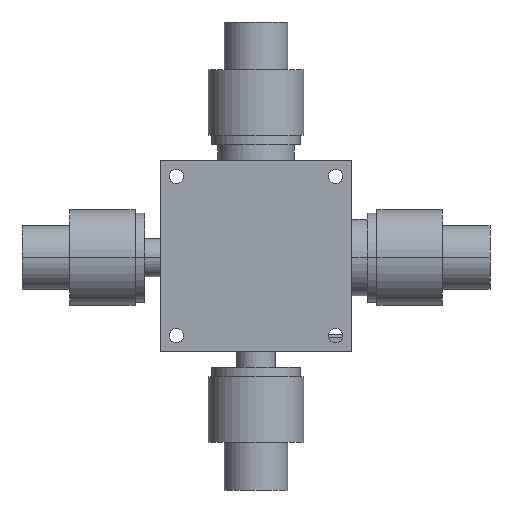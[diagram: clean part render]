
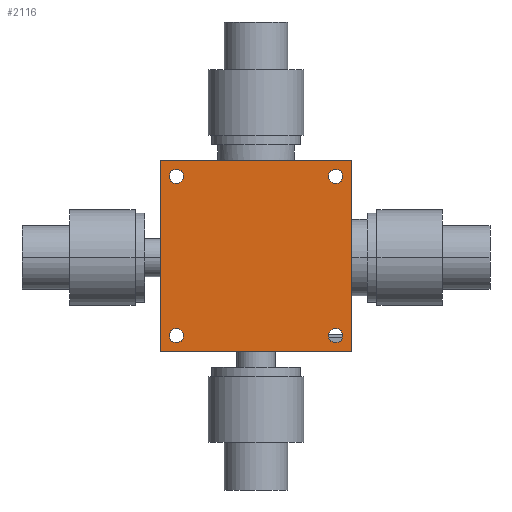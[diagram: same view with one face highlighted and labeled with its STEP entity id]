
A CAD part, front view. The second image highlights one B-rep face of the part: STEP entity #2116.
In plain terms, the highlighted planar face has unit normal (0, -1, 0).
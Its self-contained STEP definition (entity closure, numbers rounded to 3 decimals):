
#961 = CARTESIAN_POINT ( 'NONE',  ( -27.25, 0., -25. ) ) ;
#1006 = DIRECTION ( 'NONE',  ( 1., 0., 0. ) ) ;
#1007 = DIRECTION ( 'NONE',  ( 0., 1., 0. ) ) ;
#1008 = AXIS2_PLACEMENT_3D ( 'NONE', #1031, #1007, #1006 ) ;
#1017 = DIRECTION ( 'NONE',  ( 1., 0., 0. ) ) ;
#1018 = DIRECTION ( 'NONE',  ( 0., 1., 0. ) ) ;
#1019 = CARTESIAN_POINT ( 'NONE',  ( -25., 0., -25. ) ) ;
#1020 = AXIS2_PLACEMENT_3D ( 'NONE', #1019, #1018, #1017 ) ;
#1021 = CIRCLE ( 'NONE', #1020, 2.25 ) ;
#1022 = CARTESIAN_POINT ( 'NONE',  ( -22.75, 0., -25. ) ) ;
#1031 = CARTESIAN_POINT ( 'NONE',  ( 25., 0., -25. ) ) ;
#1079 = CIRCLE ( 'NONE', #1008, 2.25 ) ;
#1087 = DIRECTION ( 'NONE',  ( 1., 0., 0. ) ) ;
#1088 = DIRECTION ( 'NONE',  ( 0., 1., 0. ) ) ;
#1089 = AXIS2_PLACEMENT_3D ( 'NONE', #1141, #1088, #1087 ) ;
#1100 = CARTESIAN_POINT ( 'NONE',  ( 22.75, 0., -25. ) ) ;
#1101 = CARTESIAN_POINT ( 'NONE',  ( 27.25, 0., -25. ) ) ;
#1141 = CARTESIAN_POINT ( 'NONE',  ( -25., 0., 25. ) ) ;
#1142 = CIRCLE ( 'NONE', #1089, 2.25 ) ;
#1857 = ORIENTED_EDGE ( 'NONE', *, *, #2204, .T. ) ;
#1858 = ORIENTED_EDGE ( 'NONE', *, *, #1859, .T. ) ;
#1859 = EDGE_CURVE ( 'NONE', #2221, #1860, #3244, .T. ) ;
#1860 = VERTEX_POINT ( 'NONE', #3240 ) ;
#1861 = ORIENTED_EDGE ( 'NONE', *, *, #1862, .T. ) ;
#1862 = EDGE_CURVE ( 'NONE', #1860, #1895, #3239, .T. ) ;
#1878 = EDGE_CURVE ( 'NONE', #1879, #1926, #3343, .T. ) ;
#1879 = VERTEX_POINT ( 'NONE', #3272 ) ;
#1888 = EDGE_LOOP ( 'NONE', ( #1889, #1891 ) ) ;
#1889 = ORIENTED_EDGE ( 'NONE', *, *, #2219, .T. ) ;
#1891 = ORIENTED_EDGE ( 'NONE', *, *, #1878, .T. ) ;
#1892 = EDGE_LOOP ( 'NONE', ( #1893, #1857, #1858, #1861 ) ) ;
#1893 = ORIENTED_EDGE ( 'NONE', *, *, #1894, .T. ) ;
#1894 = EDGE_CURVE ( 'NONE', #1895, #2220, #3265, .T. ) ;
#1895 = VERTEX_POINT ( 'NONE', #3256 ) ;
#1923 = VERTEX_POINT ( 'NONE', #3443 ) ;
#1924 = VERTEX_POINT ( 'NONE', #3442 ) ;
#1926 = VERTEX_POINT ( 'NONE', #3419 ) ;
#2110 = EDGE_CURVE ( 'NONE', #5774, #5529, #3432, .T. ) ;
#2116 = ADVANCED_FACE ( 'NONE', ( #3455, #3463, #3459, #3457, #3456 ), #3466, .F. ) ;
#2117 = EDGE_LOOP ( 'NONE', ( #2118, #2119 ) ) ;
#2118 = ORIENTED_EDGE ( 'NONE', *, *, #2128, .T. ) ;
#2119 = ORIENTED_EDGE ( 'NONE', *, *, #5761, .T. ) ;
#2120 = EDGE_LOOP ( 'NONE', ( #2121, #2122 ) ) ;
#2121 = ORIENTED_EDGE ( 'NONE', *, *, #2110, .T. ) ;
#2122 = ORIENTED_EDGE ( 'NONE', *, *, #5773, .T. ) ;
#2123 = EDGE_LOOP ( 'NONE', ( #2124, #2125 ) ) ;
#2124 = ORIENTED_EDGE ( 'NONE', *, *, #2133, .T. ) ;
#2125 = ORIENTED_EDGE ( 'NONE', *, *, #5769, .T. ) ;
#2128 = EDGE_CURVE ( 'NONE', #5759, #5760, #3470, .T. ) ;
#2133 = EDGE_CURVE ( 'NONE', #1924, #1923, #3479, .T. ) ;
#2204 = EDGE_CURVE ( 'NONE', #2220, #2221, #3639, .T. ) ;
#2219 = EDGE_CURVE ( 'NONE', #1926, #1879, #3621, .T. ) ;
#2220 = VERTEX_POINT ( 'NONE', #3616 ) ;
#2221 = VERTEX_POINT ( 'NONE', #3615 ) ;
#3236 = DIRECTION ( 'NONE',  ( -1., 0., 0. ) ) ;
#3237 = VECTOR ( 'NONE', #3236, 1000. ) ;
#3238 = CARTESIAN_POINT ( 'NONE',  ( -30., 0., 30. ) ) ;
#3239 = LINE ( 'NONE', #3238, #3237 ) ;
#3240 = CARTESIAN_POINT ( 'NONE',  ( 30., 0., 30. ) ) ;
#3241 = DIRECTION ( 'NONE',  ( 0., 0., 1. ) ) ;
#3242 = VECTOR ( 'NONE', #3241, 1000. ) ;
#3243 = CARTESIAN_POINT ( 'NONE',  ( 30., 0., -30. ) ) ;
#3244 = LINE ( 'NONE', #3243, #3242 ) ;
#3256 = CARTESIAN_POINT ( 'NONE',  ( -30., 0., 30. ) ) ;
#3257 = DIRECTION ( 'NONE',  ( 0., 0., -1. ) ) ;
#3258 = VECTOR ( 'NONE', #3257, 1000. ) ;
#3259 = CARTESIAN_POINT ( 'NONE',  ( -30., 0., -30. ) ) ;
#3265 = LINE ( 'NONE', #3259, #3258 ) ;
#3272 = CARTESIAN_POINT ( 'NONE',  ( 22.75, 0., 25. ) ) ;
#3339 = DIRECTION ( 'NONE',  ( 1., 0., 0. ) ) ;
#3340 = DIRECTION ( 'NONE',  ( 0., 1., 0. ) ) ;
#3341 = CARTESIAN_POINT ( 'NONE',  ( 25., 0., 25. ) ) ;
#3342 = AXIS2_PLACEMENT_3D ( 'NONE', #3341, #3340, #3339 ) ;
#3343 = CIRCLE ( 'NONE', #3342, 2.25 ) ;
#3419 = CARTESIAN_POINT ( 'NONE',  ( 27.25, 0., 25. ) ) ;
#3424 = DIRECTION ( 'NONE',  ( 0., 1., 0. ) ) ;
#3426 = CARTESIAN_POINT ( 'NONE',  ( -25., 0., -25. ) ) ;
#3431 = AXIS2_PLACEMENT_3D ( 'NONE', #3426, #3424, #3460 ) ;
#3432 = CIRCLE ( 'NONE', #3431, 2.25 ) ;
#3442 = CARTESIAN_POINT ( 'NONE',  ( -22.75, 0., 25. ) ) ;
#3443 = CARTESIAN_POINT ( 'NONE',  ( -27.25, 0., 25. ) ) ;
#3455 = FACE_BOUND ( 'NONE', #2117, .T. ) ;
#3456 = FACE_OUTER_BOUND ( 'NONE', #1892, .T. ) ;
#3457 = FACE_BOUND ( 'NONE', #1888, .T. ) ;
#3459 = FACE_BOUND ( 'NONE', #2123, .T. ) ;
#3460 = DIRECTION ( 'NONE',  ( 1., 0., 0. ) ) ;
#3463 = FACE_BOUND ( 'NONE', #2120, .T. ) ;
#3465 = DIRECTION ( 'NONE',  ( 1., 0., 0. ) ) ;
#3466 = PLANE ( 'NONE',  #3468 ) ;
#3467 = DIRECTION ( 'NONE',  ( 0., 1., 0. ) ) ;
#3468 = AXIS2_PLACEMENT_3D ( 'NONE', #3469, #3467, #3465 ) ;
#3469 = CARTESIAN_POINT ( 'NONE',  ( -30., 0., -30. ) ) ;
#3470 = CIRCLE ( 'NONE', #3473, 2.25 ) ;
#3471 = CARTESIAN_POINT ( 'NONE',  ( -25., 0., 25. ) ) ;
#3473 = AXIS2_PLACEMENT_3D ( 'NONE', #3477, #3498, #3480 ) ;
#3476 = DIRECTION ( 'NONE',  ( 0., 1., 0. ) ) ;
#3477 = CARTESIAN_POINT ( 'NONE',  ( 25., 0., -25. ) ) ;
#3479 = CIRCLE ( 'NONE', #3481, 2.25 ) ;
#3480 = DIRECTION ( 'NONE',  ( 1., 0., 0. ) ) ;
#3481 = AXIS2_PLACEMENT_3D ( 'NONE', #3471, #3476, #3482 ) ;
#3482 = DIRECTION ( 'NONE',  ( 1., 0., 0. ) ) ;
#3498 = DIRECTION ( 'NONE',  ( 0., 1., 0. ) ) ;
#3615 = CARTESIAN_POINT ( 'NONE',  ( 30., 0., -30. ) ) ;
#3616 = CARTESIAN_POINT ( 'NONE',  ( -30., 0., -30. ) ) ;
#3617 = DIRECTION ( 'NONE',  ( 1., 0., 0. ) ) ;
#3618 = DIRECTION ( 'NONE',  ( 0., 1., 0. ) ) ;
#3619 = CARTESIAN_POINT ( 'NONE',  ( 25., 0., 25. ) ) ;
#3620 = AXIS2_PLACEMENT_3D ( 'NONE', #3619, #3618, #3617 ) ;
#3621 = CIRCLE ( 'NONE', #3620, 2.25 ) ;
#3632 = DIRECTION ( 'NONE',  ( 1., 0., 0. ) ) ;
#3633 = VECTOR ( 'NONE', #3632, 1000. ) ;
#3634 = CARTESIAN_POINT ( 'NONE',  ( -30., 0., -30. ) ) ;
#3639 = LINE ( 'NONE', #3634, #3633 ) ;
#5529 = VERTEX_POINT ( 'NONE', #961 ) ;
#5759 = VERTEX_POINT ( 'NONE', #1101 ) ;
#5760 = VERTEX_POINT ( 'NONE', #1100 ) ;
#5761 = EDGE_CURVE ( 'NONE', #5760, #5759, #1079, .T. ) ;
#5769 = EDGE_CURVE ( 'NONE', #1923, #1924, #1142, .T. ) ;
#5773 = EDGE_CURVE ( 'NONE', #5529, #5774, #1021, .T. ) ;
#5774 = VERTEX_POINT ( 'NONE', #1022 ) ;
